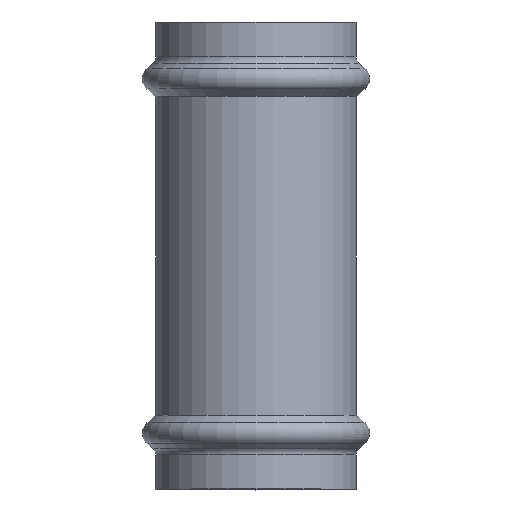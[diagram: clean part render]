
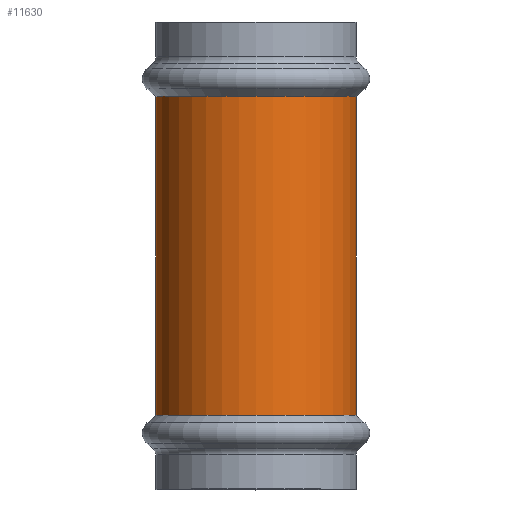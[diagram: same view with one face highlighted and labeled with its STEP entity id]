
A CAD part, top view. The second image highlights one B-rep face of the part: STEP entity #11630.
In plain terms, the highlighted cylindrical face has radius 28.9 mm (diameter 57.8 mm), a partial arc.
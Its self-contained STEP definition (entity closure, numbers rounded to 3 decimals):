
#10=CARTESIAN_POINT('',(31.006,15.527,0.));
#20=DIRECTION('',(0.,1.,0.));
#30=DIRECTION('',(1.,0.,0.));
#40=AXIS2_PLACEMENT_3D('',#10,#20,#30);
#50=CYLINDRICAL_SURFACE('',#40,28.9);
#60=CARTESIAN_POINT('',(59.906,15.527,0.));
#70=DIRECTION('',(0.,1.,0.));
#80=VECTOR('',#70,1.);
#90=LINE('',#60,#80);
#100=CARTESIAN_POINT('',(59.906,-30.513,0.));
#110=VERTEX_POINT('',#100);
#120=CARTESIAN_POINT('',(59.906,61.566,0.));
#130=VERTEX_POINT('',#120);
#140=EDGE_CURVE('',#110,#130,#90,.T.);
#160=CARTESIAN_POINT('',(31.006,61.566,0.));
#170=DIRECTION('',(0.,-1.,0.));
#180=DIRECTION('',(1.,0.,0.));
#190=AXIS2_PLACEMENT_3D('',#160,#170,#180);
#200=CIRCLE('',#190,28.9);
#210=CARTESIAN_POINT('',(2.106,61.566,
0.));
#220=VERTEX_POINT('',#210);
#250=CARTESIAN_POINT('',(2.106,15.527,
0.));
#260=DIRECTION('',(0.,1.,0.));
#270=VECTOR('',#260,1.);
#280=LINE('',#250,#270);
#290=CARTESIAN_POINT('',(2.106,-30.513,
0.));
#300=VERTEX_POINT('',#290);
#310=EDGE_CURVE('',#300,#220,#280,.T.);
#330=CARTESIAN_POINT('',(31.006,-30.513,0.));
#340=DIRECTION('',(0.,1.,0.));
#350=DIRECTION('',(-1.,0.,0.));
#360=AXIS2_PLACEMENT_3D('',#330,#340,#350);
#370=CIRCLE('',#360,28.9);
#10870=EDGE_CURVE('',#130,#220,#200,.T.);
#11180=EDGE_CURVE('',#300,#110,#370,.T.);
#11570=ORIENTED_EDGE('',*,*,#11180,.T.);
#11580=ORIENTED_EDGE('',*,*,#310,.F.);
#11590=ORIENTED_EDGE('',*,*,#10870,.T.);
#11600=ORIENTED_EDGE('',*,*,#140,.T.);
#11610=EDGE_LOOP('',(#11600,#11590,#11580,#11570));
#11620=FACE_OUTER_BOUND('',#11610,.T.);
#11630=ADVANCED_FACE('',(#11620),#50,.T.);
